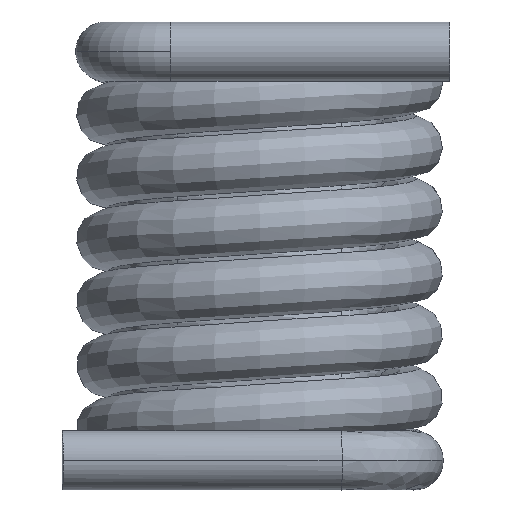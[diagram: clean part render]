
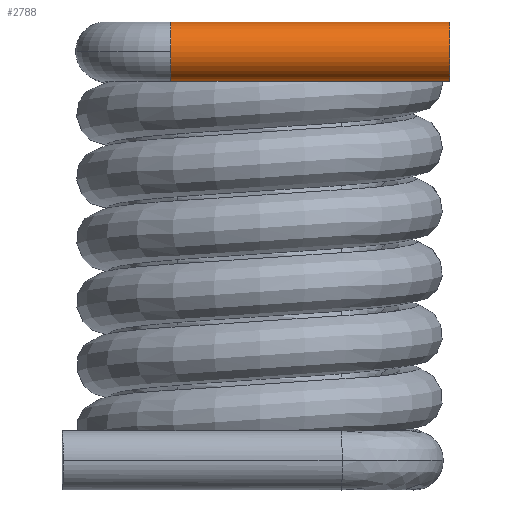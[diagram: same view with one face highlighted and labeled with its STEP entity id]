
A CAD part, front view. The second image highlights one B-rep face of the part: STEP entity #2788.
In plain terms, the highlighted cylindrical face has radius 0.45 mm (diameter 0.9 mm), a partial arc.
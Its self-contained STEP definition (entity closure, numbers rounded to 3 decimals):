
#374 = CARTESIAN_POINT ( 'NONE',  ( -1.35, -3.45, 0. ) ) ;
#550 = VERTEX_POINT ( 'NONE', #6115 ) ;
#561 = DIRECTION ( 'NONE',  ( 0., -1., 0. ) ) ;
#808 = VERTEX_POINT ( 'NONE', #2265 ) ;
#1069 = ORIENTED_EDGE ( 'NONE', *, *, #3226, .F. ) ;
#1093 = VERTEX_POINT ( 'NONE', #1902 ) ;
#1618 = DIRECTION ( 'NONE',  ( 1., 0., 0. ) ) ;
#1627 = CARTESIAN_POINT ( 'NONE',  ( -1.35, -3.45, 0.45 ) ) ;
#1739 = DIRECTION ( 'NONE',  ( -1., 0., 0. ) ) ;
#1889 = DIRECTION ( 'NONE',  ( -1., 0., 0. ) ) ;
#1902 = CARTESIAN_POINT ( 'NONE',  ( -1.35, -3.45, -0.45 ) ) ;
#2106 = DIRECTION ( 'NONE',  ( 0., -1., 0. ) ) ;
#2194 = AXIS2_PLACEMENT_3D ( 'NONE', #4029, #6351, #2403 ) ;
#2265 = CARTESIAN_POINT ( 'NONE',  ( -1.35, -3.9, 0. ) ) ;
#2281 = EDGE_LOOP ( 'NONE', ( #6371, #1069, #4640, #4910, #6178 ) ) ;
#2403 = DIRECTION ( 'NONE',  ( 0., 0., -1. ) ) ;
#2584 = AXIS2_PLACEMENT_3D ( 'NONE', #6999, #1889, #3503 ) ;
#2643 = LINE ( 'NONE', #3123, #4191 ) ;
#2741 = CIRCLE ( 'NONE', #5170, 0.45 ) ;
#2788 = ADVANCED_FACE ( 'NONE', ( #7039 ), #3657, .T. ) ;
#2837 = AXIS2_PLACEMENT_3D ( 'NONE', #374, #4447, #2106 ) ;
#2857 = EDGE_CURVE ( 'NONE', #550, #3264, #4313, .T. ) ;
#3123 = CARTESIAN_POINT ( 'NONE',  ( -1.35, -3.45, -0.45 ) ) ;
#3226 = EDGE_CURVE ( 'NONE', #808, #5996, #6752, .T. ) ;
#3264 = VERTEX_POINT ( 'NONE', #7294 ) ;
#3503 = DIRECTION ( 'NONE',  ( 0., 0., -1. ) ) ;
#3657 = CYLINDRICAL_SURFACE ( 'NONE', #2194, 0.45 ) ;
#3970 = CARTESIAN_POINT ( 'NONE',  ( -1.35, -3.45, 0.45 ) ) ;
#4029 = CARTESIAN_POINT ( 'NONE',  ( -1.35, -3.45, 0. ) ) ;
#4191 = VECTOR ( 'NONE', #4303, 1000. ) ;
#4303 = DIRECTION ( 'NONE',  ( 1., 0., 0. ) ) ;
#4313 = CIRCLE ( 'NONE', #2584, 0.45 ) ;
#4326 = LINE ( 'NONE', #3970, #6034 ) ;
#4359 = EDGE_CURVE ( 'NONE', #1093, #550, #2643, .T. ) ;
#4447 = DIRECTION ( 'NONE',  ( -1., 0., 0. ) ) ;
#4640 = ORIENTED_EDGE ( 'NONE', *, *, #4746, .F. ) ;
#4746 = EDGE_CURVE ( 'NONE', #1093, #808, #2741, .T. ) ;
#4910 = ORIENTED_EDGE ( 'NONE', *, *, #4359, .T. ) ;
#5170 = AXIS2_PLACEMENT_3D ( 'NONE', #6309, #1739, #561 ) ;
#5996 = VERTEX_POINT ( 'NONE', #1627 ) ;
#6034 = VECTOR ( 'NONE', #1618, 1000. ) ;
#6115 = CARTESIAN_POINT ( 'NONE',  ( 2.9, -3.45, -0.45 ) ) ;
#6178 = ORIENTED_EDGE ( 'NONE', *, *, #2857, .T. ) ;
#6309 = CARTESIAN_POINT ( 'NONE',  ( -1.35, -3.45, 0. ) ) ;
#6351 = DIRECTION ( 'NONE',  ( 1., 0., 0. ) ) ;
#6371 = ORIENTED_EDGE ( 'NONE', *, *, #7513, .F. ) ;
#6752 = CIRCLE ( 'NONE', #2837, 0.45 ) ;
#6999 = CARTESIAN_POINT ( 'NONE',  ( 2.9, -3.45, 0. ) ) ;
#7039 = FACE_OUTER_BOUND ( 'NONE', #2281, .T. ) ;
#7294 = CARTESIAN_POINT ( 'NONE',  ( 2.9, -3.45, 0.45 ) ) ;
#7513 = EDGE_CURVE ( 'NONE', #5996, #3264, #4326, .T. ) ;
